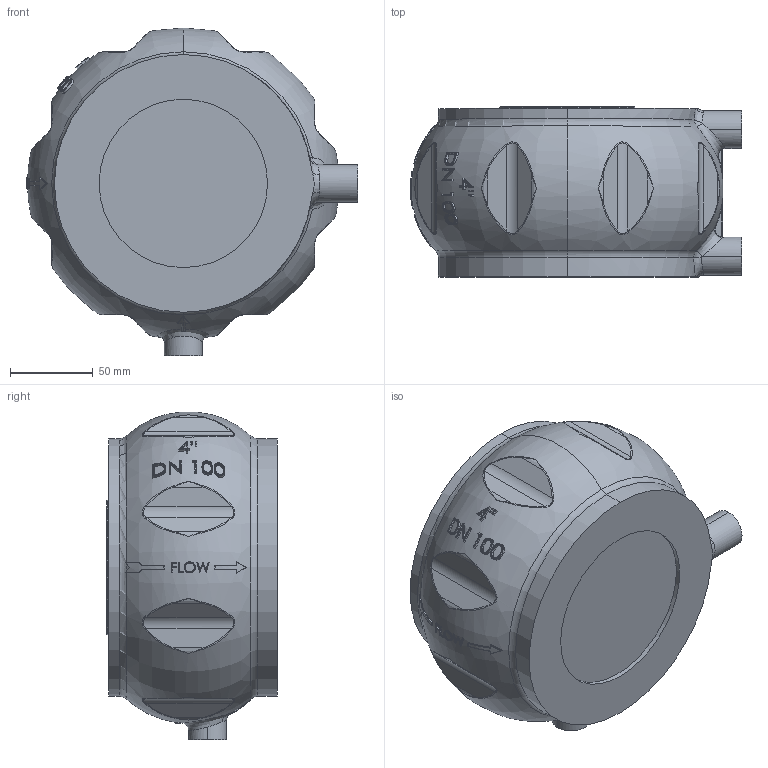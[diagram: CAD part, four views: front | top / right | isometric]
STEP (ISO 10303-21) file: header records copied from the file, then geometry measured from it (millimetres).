
FILE_DESCRIPTION (( 'STEP AP203' ), '1' );
FILE_NAME ('4in 100-42 Roll Seal Main Valve, 150WB.STEP', '2016-06-29T19:41:44', ( '' ), ( '' ), 'SwSTEP 2.0', 'SolidWorks 2016', '' );
FILE_SCHEMA (( 'CONFIG_CONTROL_DESIGN' ));
Length unit declared in the file: inch
Products named in the file (1): 4in 100-42 Roll Seal Main Valve, 150WB
Bounding box: 199.86 x 102.66 x 197.93 mm (x, y, z)
Volume: 2275723.9 mm3; surface area: 132819.4 mm2
Topology: 1 solids, 1 shells, 946 faces, 2474 edges, 1510 vertices
Faces by surface type: bspline 299, cylinder 253, plane 212, torus 167, cone 12, sphere 3
Entity records: 44470 total; most frequent: CARTESIAN_POINT 23770, ORIENTED_EDGE 4870, DIRECTION 3625, EDGE_CURVE 2435, VERTEX_POINT 1510, AXIS2_PLACEMENT_3D 1497, EDGE_LOOP 995, FACE_OUTER_BOUND 946
